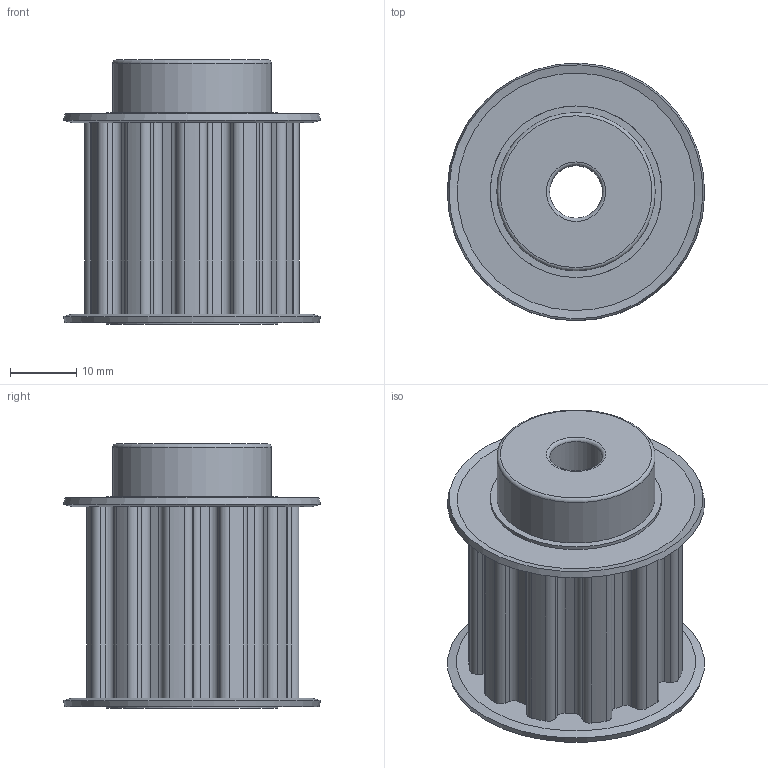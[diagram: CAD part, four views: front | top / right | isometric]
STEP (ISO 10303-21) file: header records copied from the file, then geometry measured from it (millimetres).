
FILE_DESCRIPTION(/* description */ (''),/* implementation_level */ '2;1');
FILE_NAME(/* name */ 'C:\Users\jleeuw\Desktop\Stock Pulleys\Step\LS 40 L_11-2 hub 24x8 dv=8.iam.stp',/* time_stamp */ '2014-12-11T13:05:08-05:00',/* author */ ('jleeuw'),/* organization */ (''),/* preprocessor_version */ 'ST-DEVELOPER v15.6',/* originating_system */ 'Autodesk Inventor 2015',/* authorisation */ '');
FILE_SCHEMA (('CONFIG_CONTROL_DESIGN'));
Length unit declared in the file: millimetre
Products named in the file (3): LS 40 L_11-2 hub 24x8 dv=8; BS1-024b
Bounding box: 39 x 39 x 40 mm (x, y, z)
Volume: 25186.4 mm3; surface area: 9888.3 mm2
Topology: 3 solids, 3 shells, 112 faces, 303 edges, 200 vertices
Faces by surface type: cylinder 61, plane 42, cone 6, torus 3
Full cylindrical faces by diameter (mm): 8 x1, 24 x1, 26 x4
Entity records: 3449 total; most frequent: DIRECTION 632, CARTESIAN_POINT 586, ORIENTED_EDGE 562, EDGE_CURVE 281, AXIS2_PLACEMENT_3D 239, VERTEX_POINT 193, LINE 154, VECTOR 154
